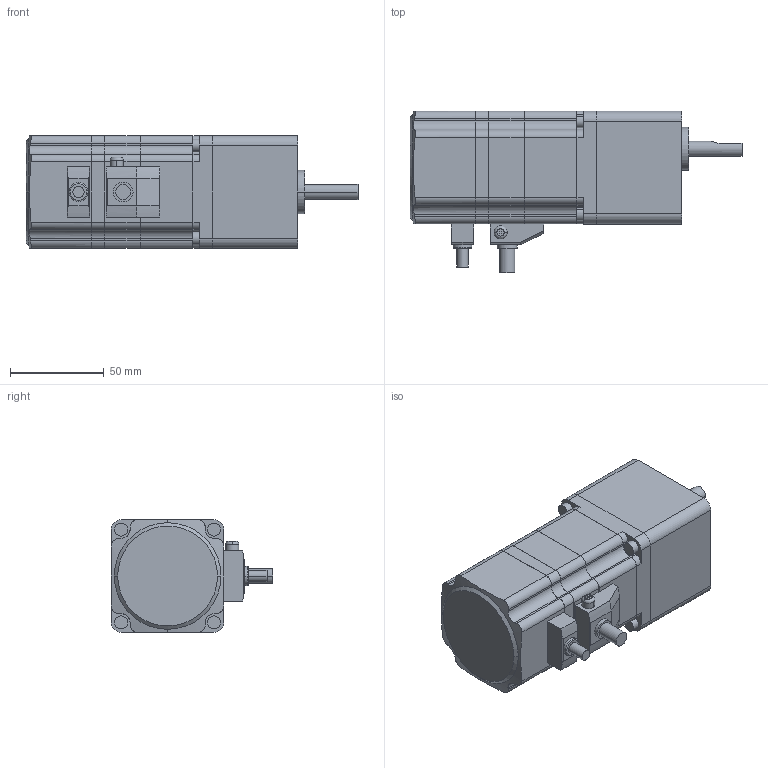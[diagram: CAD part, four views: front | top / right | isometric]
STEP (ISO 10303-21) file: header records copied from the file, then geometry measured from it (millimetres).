
FILE_DESCRIPTION( ( '' ), '1' );
FILE_NAME( 'c:/cad_url_generator/oriental/selction_from_product_tree/stepping_motors/alpha_step/ar_series/built_in_pos_fun_type/bi_th_asmtab/AR66MCD-T3.6-1.STEP', '2012-06-14T16:40:21', ( '' ), ( '' ), ' ', ' ', ' ' );
FILE_SCHEMA( ( 'CONFIG_CONTROL_DESIGN' ) );
Length unit declared in the file: millimetre
Products named in the file (2): 1; 2
Bounding box: 177 x 86 x 60 mm (x, y, z)
Volume: 495058.9 mm3; surface area: 50715.3 mm2
Topology: 2 solids, 2 shells, 349 faces, 955 edges, 626 vertices
Faces by surface type: plane 166, cylinder 157, cone 20, torus 4, sphere 2
Entity records: 11511 total; most frequent: CARTESIAN_POINT 2326, DIRECTION 1961, ORIENTED_EDGE 1894, EDGE_CURVE 947, AXIS2_PLACEMENT_3D 689, VERTEX_POINT 626, LINE 583, VECTOR 583
